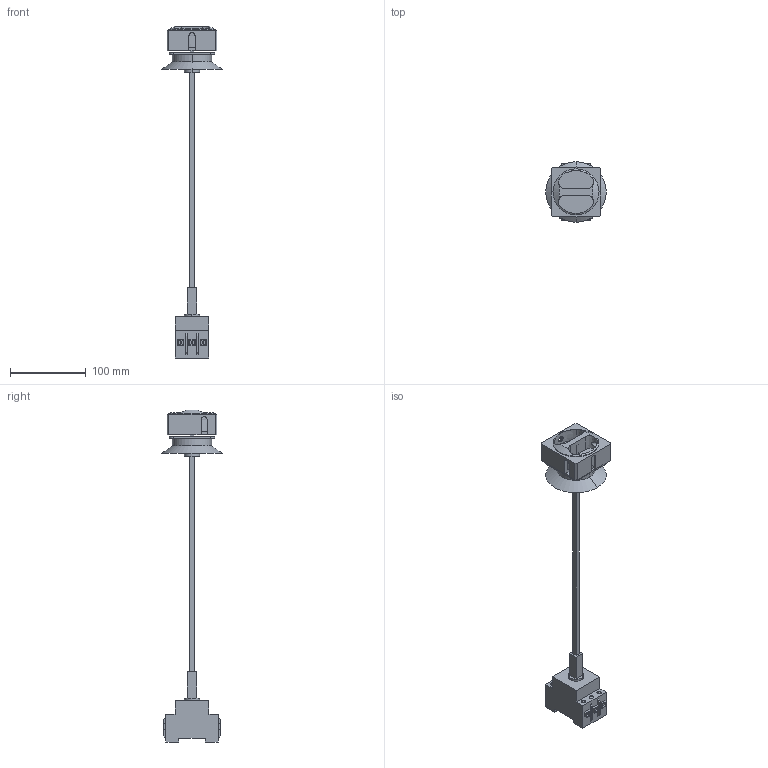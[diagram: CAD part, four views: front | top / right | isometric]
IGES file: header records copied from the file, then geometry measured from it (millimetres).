
Start section:  PTC IGES file: C:\TPO v2\SharedFS\Outgoing\inter_sect_022143_0_ew.igs
Global section: file name: C:\TPO v2\SharedFS\Outgoing\inter_sect_022143_0_ew.igs; native system:  by Parametric Technology Corporation; preprocessor: 2013430; organization: Unknown; date: 20170511.144442; units: millimetre
Bounding box: 80 x 80 x 439.5 mm (x, y, z)
Volume: 284762.2 mm3; surface area: 70560.5 mm2
Topology: 1 solids, 3 shells, 239 faces, 580 edges, 382 vertices
Faces by surface type: bspline 179, revolution 60
